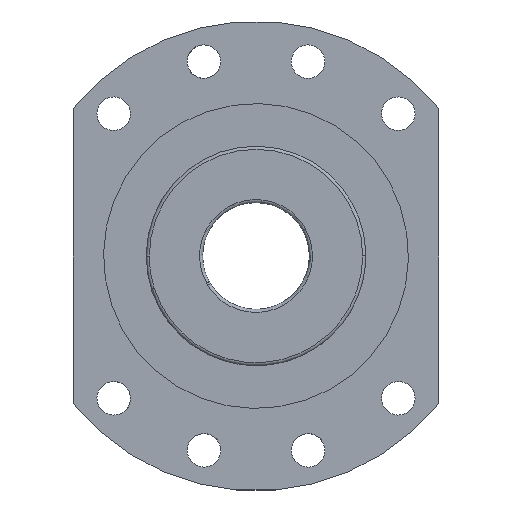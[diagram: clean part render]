
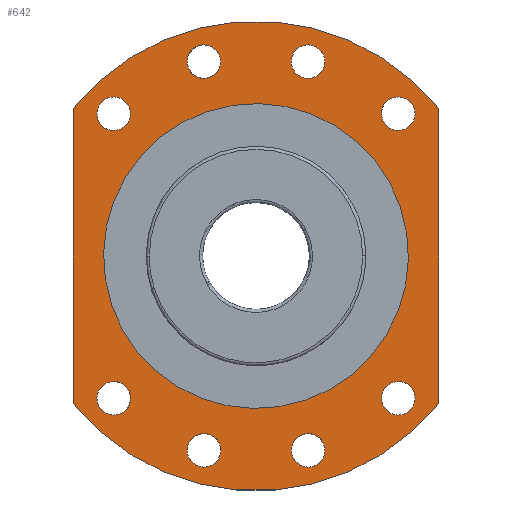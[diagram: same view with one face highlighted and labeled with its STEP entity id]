
A CAD part, left-side view. The second image highlights one B-rep face of the part: STEP entity #642.
In plain terms, the highlighted planar face has unit normal (-1, 0, 0).
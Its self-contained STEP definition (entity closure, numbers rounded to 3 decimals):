
#182=CARTESIAN_POINT('Axis2P3D Location',(-15.,46.669,46.669)) ;
#186=CARTESIAN_POINT('Vertex',(-15.,41.842,49.306)) ;
#188=CARTESIAN_POINT('Vertex',(-15.,51.496,44.032)) ;
#213=CARTESIAN_POINT('Axis2P3D Location',(-15.,46.669,46.669)) ;
#455=CARTESIAN_POINT('Axis2P3D Location',(-15.,0.,127.342)) ;
#460=CARTESIAN_POINT('Line Origine',(-15.,60.,0.)) ;
#464=CARTESIAN_POINT('Vertex',(-15.,60.,-48.26)) ;
#466=CARTESIAN_POINT('Vertex',(-15.,60.,48.26)) ;
#469=CARTESIAN_POINT('Axis2P3D Location',(-15.,0.,0.)) ;
#473=CARTESIAN_POINT('Vertex',(-15.,-60.,-48.26)) ;
#476=CARTESIAN_POINT('Line Origine',(-15.,-60.,0.)) ;
#480=CARTESIAN_POINT('Vertex',(-15.,-60.,48.26)) ;
#483=CARTESIAN_POINT('Axis2P3D Location',(-15.,0.,0.)) ;
#498=CARTESIAN_POINT('Axis2P3D Location',(-15.,0.,0.)) ;
#502=CARTESIAN_POINT('Vertex',(-15.,23.971,43.879)) ;
#504=CARTESIAN_POINT('Vertex',(-15.,-23.971,-43.879)) ;
#507=CARTESIAN_POINT('Axis2P3D Location',(-15.,0.,0.)) ;
#516=CARTESIAN_POINT('Axis2P3D Location',(-15.,17.082,63.751)) ;
#520=CARTESIAN_POINT('Vertex',(-15.,22.581,63.881)) ;
#522=CARTESIAN_POINT('Vertex',(-15.,11.584,63.621)) ;
#525=CARTESIAN_POINT('Axis2P3D Location',(-15.,17.082,63.751)) ;
#534=CARTESIAN_POINT('Axis2P3D Location',(-15.,-17.082,63.751)) ;
#538=CARTESIAN_POINT('Vertex',(-15.,-12.385,66.613)) ;
#540=CARTESIAN_POINT('Vertex',(-15.,-21.779,60.889)) ;
#543=CARTESIAN_POINT('Axis2P3D Location',(-15.,-17.082,63.751)) ;
#552=CARTESIAN_POINT('Axis2P3D Location',(-15.,-46.669,46.669)) ;
#556=CARTESIAN_POINT('Vertex',(-15.,-44.032,51.496)) ;
#558=CARTESIAN_POINT('Vertex',(-15.,-49.306,41.842)) ;
#561=CARTESIAN_POINT('Axis2P3D Location',(-15.,-46.669,46.669)) ;
#570=CARTESIAN_POINT('Axis2P3D Location',(-15.,-46.669,-46.669)) ;
#574=CARTESIAN_POINT('Vertex',(-15.,-51.496,-44.032)) ;
#576=CARTESIAN_POINT('Vertex',(-15.,-41.842,-49.306)) ;
#579=CARTESIAN_POINT('Axis2P3D Location',(-15.,-46.669,-46.669)) ;
#588=CARTESIAN_POINT('Axis2P3D Location',(-15.,-17.082,-63.751)) ;
#592=CARTESIAN_POINT('Vertex',(-15.,-22.581,-63.881)) ;
#594=CARTESIAN_POINT('Vertex',(-15.,-11.584,-63.621)) ;
#597=CARTESIAN_POINT('Axis2P3D Location',(-15.,-17.082,-63.751)) ;
#606=CARTESIAN_POINT('Axis2P3D Location',(-15.,17.082,-63.751)) ;
#610=CARTESIAN_POINT('Vertex',(-15.,12.385,-66.613)) ;
#612=CARTESIAN_POINT('Vertex',(-15.,21.779,-60.889)) ;
#615=CARTESIAN_POINT('Axis2P3D Location',(-15.,17.082,-63.751)) ;
#624=CARTESIAN_POINT('Axis2P3D Location',(-15.,46.669,-46.669)) ;
#628=CARTESIAN_POINT('Vertex',(-15.,44.032,-51.496)) ;
#630=CARTESIAN_POINT('Vertex',(-15.,49.306,-41.842)) ;
#633=CARTESIAN_POINT('Axis2P3D Location',(-15.,46.669,-46.669)) ;
#183=DIRECTION('Axis2P3D Direction',(-1.,0.,0.)) ;
#214=DIRECTION('Axis2P3D Direction',(-1.,0.,-0.)) ;
#456=DIRECTION('Axis2P3D Direction',(-1.,0.,0.)) ;
#457=DIRECTION('Axis2P3D XDirection',(0.,1.,0.)) ;
#461=DIRECTION('Vector Direction',(0.,0.,1.)) ;
#470=DIRECTION('Axis2P3D Direction',(-1.,0.,0.)) ;
#477=DIRECTION('Vector Direction',(0.,0.,-1.)) ;
#484=DIRECTION('Axis2P3D Direction',(-1.,0.,0.)) ;
#499=DIRECTION('Axis2P3D Direction',(-1.,0.,0.)) ;
#508=DIRECTION('Axis2P3D Direction',(-1.,0.,0.)) ;
#517=DIRECTION('Axis2P3D Direction',(-1.,0.,0.)) ;
#526=DIRECTION('Axis2P3D Direction',(-1.,0.,0.)) ;
#535=DIRECTION('Axis2P3D Direction',(-1.,0.,0.)) ;
#544=DIRECTION('Axis2P3D Direction',(-1.,0.,0.)) ;
#553=DIRECTION('Axis2P3D Direction',(-1.,0.,0.)) ;
#562=DIRECTION('Axis2P3D Direction',(-1.,0.,0.)) ;
#571=DIRECTION('Axis2P3D Direction',(-1.,0.,0.)) ;
#580=DIRECTION('Axis2P3D Direction',(-1.,0.,0.)) ;
#589=DIRECTION('Axis2P3D Direction',(-1.,0.,0.)) ;
#598=DIRECTION('Axis2P3D Direction',(-1.,0.,0.)) ;
#607=DIRECTION('Axis2P3D Direction',(-1.,0.,0.)) ;
#616=DIRECTION('Axis2P3D Direction',(-1.,0.,0.)) ;
#625=DIRECTION('Axis2P3D Direction',(-1.,0.,0.)) ;
#634=DIRECTION('Axis2P3D Direction',(-1.,0.,0.)) ;
#184=AXIS2_PLACEMENT_3D('Circle Axis2P3D',#182,#183,$) ;
#215=AXIS2_PLACEMENT_3D('Circle Axis2P3D',#213,#214,$) ;
#458=AXIS2_PLACEMENT_3D('Plane Axis2P3D',#455,#456,#457) ;
#471=AXIS2_PLACEMENT_3D('Circle Axis2P3D',#469,#470,$) ;
#485=AXIS2_PLACEMENT_3D('Circle Axis2P3D',#483,#484,$) ;
#500=AXIS2_PLACEMENT_3D('Circle Axis2P3D',#498,#499,$) ;
#509=AXIS2_PLACEMENT_3D('Circle Axis2P3D',#507,#508,$) ;
#518=AXIS2_PLACEMENT_3D('Circle Axis2P3D',#516,#517,$) ;
#527=AXIS2_PLACEMENT_3D('Circle Axis2P3D',#525,#526,$) ;
#536=AXIS2_PLACEMENT_3D('Circle Axis2P3D',#534,#535,$) ;
#545=AXIS2_PLACEMENT_3D('Circle Axis2P3D',#543,#544,$) ;
#554=AXIS2_PLACEMENT_3D('Circle Axis2P3D',#552,#553,$) ;
#563=AXIS2_PLACEMENT_3D('Circle Axis2P3D',#561,#562,$) ;
#572=AXIS2_PLACEMENT_3D('Circle Axis2P3D',#570,#571,$) ;
#581=AXIS2_PLACEMENT_3D('Circle Axis2P3D',#579,#580,$) ;
#590=AXIS2_PLACEMENT_3D('Circle Axis2P3D',#588,#589,$) ;
#599=AXIS2_PLACEMENT_3D('Circle Axis2P3D',#597,#598,$) ;
#608=AXIS2_PLACEMENT_3D('Circle Axis2P3D',#606,#607,$) ;
#617=AXIS2_PLACEMENT_3D('Circle Axis2P3D',#615,#616,$) ;
#626=AXIS2_PLACEMENT_3D('Circle Axis2P3D',#624,#625,$) ;
#635=AXIS2_PLACEMENT_3D('Circle Axis2P3D',#633,#634,$) ;
#489=ORIENTED_EDGE('',*,*,#468,.F.) ;
#490=ORIENTED_EDGE('',*,*,#475,.T.) ;
#491=ORIENTED_EDGE('',*,*,#482,.F.) ;
#492=ORIENTED_EDGE('',*,*,#487,.T.) ;
#495=ORIENTED_EDGE('',*,*,#217,.F.) ;
#496=ORIENTED_EDGE('',*,*,#190,.F.) ;
#513=ORIENTED_EDGE('',*,*,#506,.F.) ;
#514=ORIENTED_EDGE('',*,*,#511,.F.) ;
#531=ORIENTED_EDGE('',*,*,#524,.F.) ;
#532=ORIENTED_EDGE('',*,*,#529,.F.) ;
#549=ORIENTED_EDGE('',*,*,#542,.F.) ;
#550=ORIENTED_EDGE('',*,*,#547,.F.) ;
#567=ORIENTED_EDGE('',*,*,#560,.F.) ;
#568=ORIENTED_EDGE('',*,*,#565,.F.) ;
#585=ORIENTED_EDGE('',*,*,#578,.F.) ;
#586=ORIENTED_EDGE('',*,*,#583,.F.) ;
#603=ORIENTED_EDGE('',*,*,#596,.F.) ;
#604=ORIENTED_EDGE('',*,*,#601,.F.) ;
#621=ORIENTED_EDGE('',*,*,#614,.F.) ;
#622=ORIENTED_EDGE('',*,*,#619,.F.) ;
#639=ORIENTED_EDGE('',*,*,#632,.F.) ;
#640=ORIENTED_EDGE('',*,*,#637,.F.) ;
#497=FACE_BOUND('',#494,.T.) ;
#515=FACE_BOUND('',#512,.T.) ;
#533=FACE_BOUND('',#530,.T.) ;
#551=FACE_BOUND('',#548,.T.) ;
#569=FACE_BOUND('',#566,.T.) ;
#587=FACE_BOUND('',#584,.T.) ;
#605=FACE_BOUND('',#602,.T.) ;
#623=FACE_BOUND('',#620,.T.) ;
#641=FACE_BOUND('',#638,.T.) ;
#462=VECTOR('Line Direction',#461,1.) ;
#478=VECTOR('Line Direction',#477,1.) ;
#642=ADVANCED_FACE('FF35(H)',(#493,#497,#515,#533,#551,#569,#587,#605,#623,#641),#459,.T.) ;
#185=CIRCLE('generated circle',#184,5.5) ;
#216=CIRCLE('generated circle',#215,5.5) ;
#472=CIRCLE('generated circle',#471,77.) ;
#486=CIRCLE('generated circle',#485,77.) ;
#501=CIRCLE('generated circle',#500,50.) ;
#510=CIRCLE('generated circle',#509,50.) ;
#519=CIRCLE('generated circle',#518,5.5) ;
#528=CIRCLE('generated circle',#527,5.5) ;
#537=CIRCLE('generated circle',#536,5.5) ;
#546=CIRCLE('generated circle',#545,5.5) ;
#555=CIRCLE('generated circle',#554,5.5) ;
#564=CIRCLE('generated circle',#563,5.5) ;
#573=CIRCLE('generated circle',#572,5.5) ;
#582=CIRCLE('generated circle',#581,5.5) ;
#591=CIRCLE('generated circle',#590,5.5) ;
#600=CIRCLE('generated circle',#599,5.5) ;
#609=CIRCLE('generated circle',#608,5.5) ;
#618=CIRCLE('generated circle',#617,5.5) ;
#627=CIRCLE('generated circle',#626,5.5) ;
#636=CIRCLE('generated circle',#635,5.5) ;
#190=EDGE_CURVE('',#187,#189,#185,.T.) ;
#217=EDGE_CURVE('',#189,#187,#216,.T.) ;
#468=EDGE_CURVE('',#465,#467,#463,.T.) ;
#475=EDGE_CURVE('',#465,#474,#472,.T.) ;
#482=EDGE_CURVE('',#481,#474,#479,.T.) ;
#487=EDGE_CURVE('',#481,#467,#486,.T.) ;
#506=EDGE_CURVE('',#503,#505,#501,.T.) ;
#511=EDGE_CURVE('',#505,#503,#510,.T.) ;
#524=EDGE_CURVE('',#521,#523,#519,.T.) ;
#529=EDGE_CURVE('',#523,#521,#528,.T.) ;
#542=EDGE_CURVE('',#539,#541,#537,.T.) ;
#547=EDGE_CURVE('',#541,#539,#546,.T.) ;
#560=EDGE_CURVE('',#557,#559,#555,.T.) ;
#565=EDGE_CURVE('',#559,#557,#564,.T.) ;
#578=EDGE_CURVE('',#575,#577,#573,.T.) ;
#583=EDGE_CURVE('',#577,#575,#582,.T.) ;
#596=EDGE_CURVE('',#593,#595,#591,.T.) ;
#601=EDGE_CURVE('',#595,#593,#600,.T.) ;
#614=EDGE_CURVE('',#611,#613,#609,.T.) ;
#619=EDGE_CURVE('',#613,#611,#618,.T.) ;
#632=EDGE_CURVE('',#629,#631,#627,.T.) ;
#637=EDGE_CURVE('',#631,#629,#636,.T.) ;
#488=EDGE_LOOP('',(#489,#490,#491,#492)) ;
#494=EDGE_LOOP('',(#495,#496)) ;
#512=EDGE_LOOP('',(#513,#514)) ;
#530=EDGE_LOOP('',(#531,#532)) ;
#548=EDGE_LOOP('',(#549,#550)) ;
#566=EDGE_LOOP('',(#567,#568)) ;
#584=EDGE_LOOP('',(#585,#586)) ;
#602=EDGE_LOOP('',(#603,#604)) ;
#620=EDGE_LOOP('',(#621,#622)) ;
#638=EDGE_LOOP('',(#639,#640)) ;
#493=FACE_OUTER_BOUND('',#488,.T.) ;
#463=LINE('Line',#460,#462) ;
#479=LINE('Line',#476,#478) ;
#459=PLANE('',#458) ;
#187=VERTEX_POINT('',#186) ;
#189=VERTEX_POINT('',#188) ;
#465=VERTEX_POINT('',#464) ;
#467=VERTEX_POINT('',#466) ;
#474=VERTEX_POINT('',#473) ;
#481=VERTEX_POINT('',#480) ;
#503=VERTEX_POINT('',#502) ;
#505=VERTEX_POINT('',#504) ;
#521=VERTEX_POINT('',#520) ;
#523=VERTEX_POINT('',#522) ;
#539=VERTEX_POINT('',#538) ;
#541=VERTEX_POINT('',#540) ;
#557=VERTEX_POINT('',#556) ;
#559=VERTEX_POINT('',#558) ;
#575=VERTEX_POINT('',#574) ;
#577=VERTEX_POINT('',#576) ;
#593=VERTEX_POINT('',#592) ;
#595=VERTEX_POINT('',#594) ;
#611=VERTEX_POINT('',#610) ;
#613=VERTEX_POINT('',#612) ;
#629=VERTEX_POINT('',#628) ;
#631=VERTEX_POINT('',#630) ;
